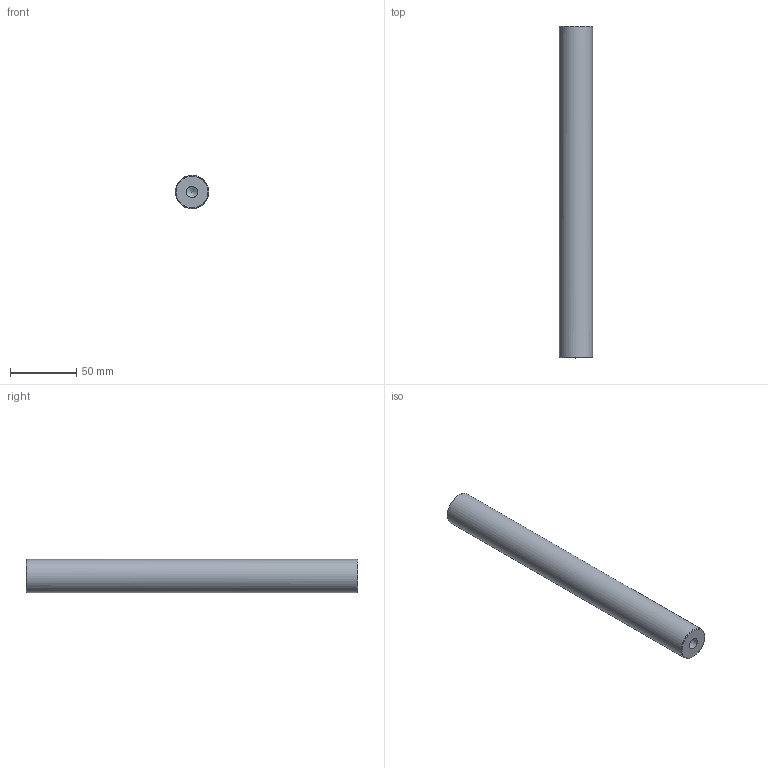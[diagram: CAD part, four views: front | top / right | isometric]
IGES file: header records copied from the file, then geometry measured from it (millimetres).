
Global section: file name: BM22-25D-250L; native system: unknown; preprocessor: unknown; author: unknown; organization: unknown; date: 20231024.141424; units: millimetre
Bounding box: 25 x 250 x 25 mm (x, y, z)
Volume: 121067.9 mm3; surface area: 21427.6 mm2
Topology: 1 solids, 1 shells, 9 faces, 21 edges, 14 vertices
Faces by surface type: bspline 9
